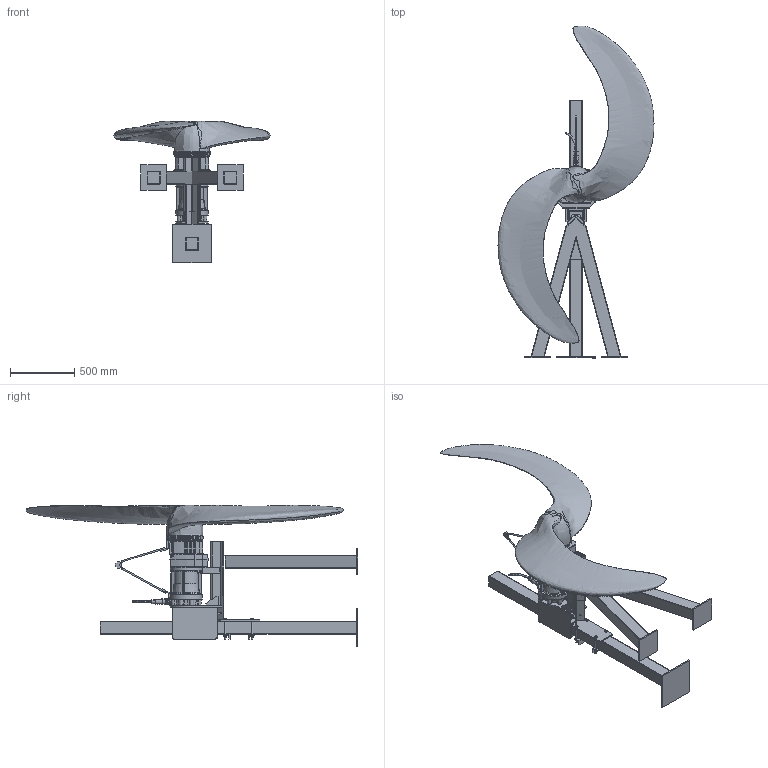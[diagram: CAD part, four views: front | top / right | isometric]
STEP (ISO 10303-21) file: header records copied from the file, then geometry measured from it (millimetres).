
FILE_DESCRIPTION (( 'STEP AP214' ), '1' );
FILE_NAME ('SB2500 Replacement unit_MSD.STEP', '2017-03-31T07:59:27', ( '' ), ( '' ), 'SwSTEP 2.0', 'SolidWorks 2017', '' );
FILE_SCHEMA (( 'AUTOMOTIVE_DESIGN' ));
Length unit declared in the file: millimetre
Products named in the file (1): SB2500 Replacement unit_MSD
Bounding box: 1216.97 x 2587.5 x 1105.53 mm (x, y, z)
Volume: 96443234.7 mm3; surface area: 7852884.4 mm2
Topology: 5 solids, 14 shells, 1562 faces, 3824 edges, 2298 vertices
Faces by surface type: plane 535, cylinder 334, bspline 267, torus 228, cone 134, sphere 64
Entity records: 410155 total; most frequent: CARTESIAN_POINT 358048, ORIENTED_EDGE 7574, DIRECTION 7058, EDGE_CURVE 3787, AXIS2_PLACEMENT_3D 2804, VERTEX_POINT 2290, EDGE_LOOP 1653, UNCERTAINTY_MEASURE_WITH_UNIT 1569
